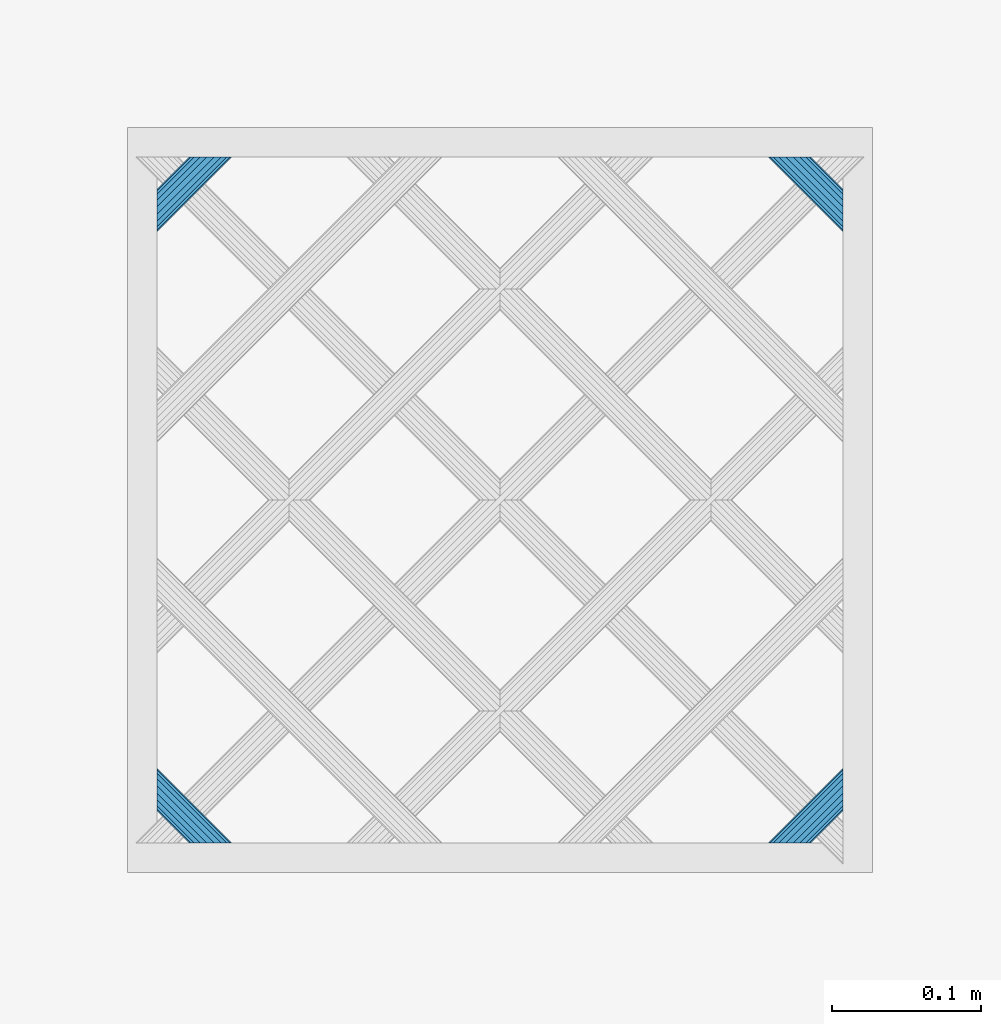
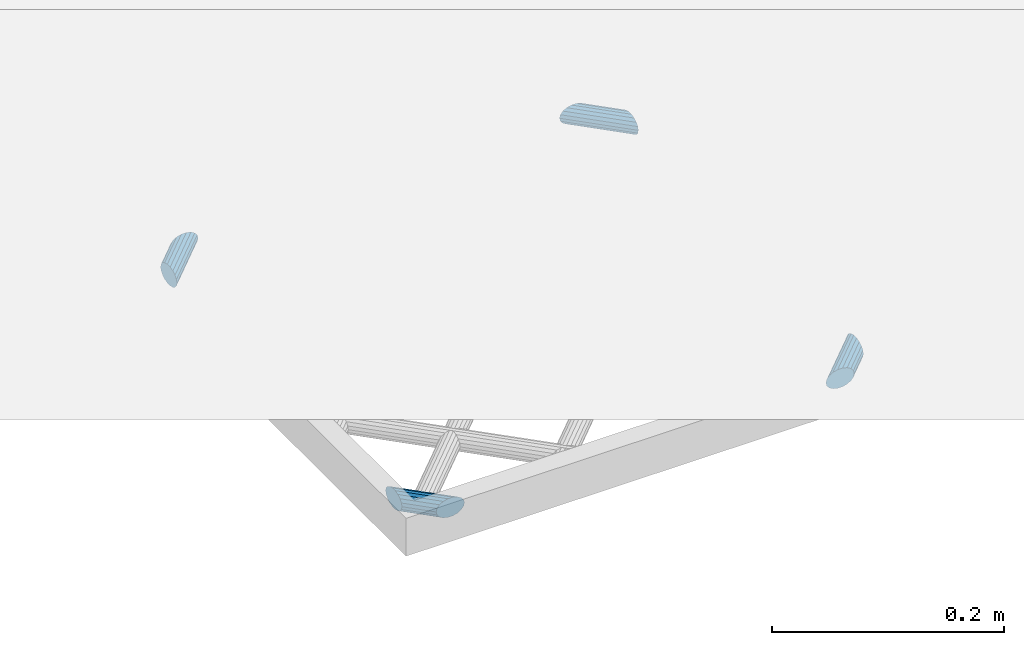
# One storey, part 82 of 133: 4 members, 1 element without a shape of its own.
"""IFC2X3 building model written with IfcOpenShell, lengths in centimetres."""

import ifcopenshell
import ifcopenshell.guid

model = None  # the IFC model being written
_history = None  # IfcOwnerHistory: only IFC2X3 demands one
_inside = {}  # id of a spatial element -> (the spatial element, [elements in it])
_under = {}  # id of a project, library or spatial element -> (it, [spatial elements below it])
_declared = {}  # id of a project -> (the project, [libraries it declares])
_typed = {}  # id of a type object -> (the type object, [elements of that type])
_made_of = {}  # id of a material, layer set ... -> (it, [elements and type objects made of it])


def new_model(schema):
    """Start an empty IFC model of exactly this schema.

    Asked for "IFC4X3", IfcOpenShell would pick the latest addendum, in which some entities
    have other attributes; the version numbers below select the first issue.
    IFC2X3 requires an IfcOwnerHistory on every rooted entity: one is made here for all.
    """
    global model, _history
    if schema == "IFC4X3":
        model = ifcopenshell.file(schema_version=(4, 3, 0, 0))
    else:
        model = ifcopenshell.file(schema=schema)
    _inside.clear()
    _under.clear()
    _declared.clear()
    _typed.clear()
    _made_of.clear()
    _history = None
    if model.schema == "IFC2X3":
        org = make("IfcOrganization", Name="unknown")
        user = make(
            "IfcPersonAndOrganization",
            ThePerson=make("IfcPerson", FamilyName="unknown"),
            TheOrganization=org,
        )
        app = make(
            "IfcApplication",
            ApplicationDeveloper=org,
            Version="unknown",
            ApplicationFullName="unknown",
            ApplicationIdentifier="unknown",
        )
        _history = make(
            "IfcOwnerHistory",
            OwningUser=user,
            OwningApplication=app,
            ChangeAction="ADDED",
            CreationDate=0,
        )
    return model


def make(cls, **values):
    """One entity of the class cls with the attributes given. An attribute that is None is left unset."""
    return model.create_entity(
        cls, **{name: value for name, value in values.items() if value is not None}
    )


def entity(cls, *values):
    """Any entity or typed value of the class cls, its attributes in the order of the schema. None: left unset."""
    e = model.create_entity(cls)
    for i, value in enumerate(values):
        if value is not None:
            e[i] = value
    return e


def rooted(cls, **values):
    """An entity with a GlobalId (a new one), such as an element, a storey or a relation."""
    return make(cls, GlobalId=ifcopenshell.guid.new(), OwnerHistory=_history, **values)


def si_unit(unit_type, name, prefix=None):
    """IfcSIUnit, for example si_unit("LENGTHUNIT", "METRE", prefix="MILLI")."""
    return make("IfcSIUnit", UnitType=unit_type, Prefix=prefix, Name=name)


def converted_unit(unit_type, name, factor, base, dimensions=None, offset=None):
    """IfcConversionBasedUnit, such as the inch: factor (a typed value) times the base unit."""
    return make(
        "IfcConversionBasedUnit"
        if offset is None
        else "IfcConversionBasedUnitWithOffset",
        ConversionOffset=offset,
        Dimensions=None
        if dimensions is None
        else entity("IfcDimensionalExponents", *dimensions),
        UnitType=unit_type,
        Name=name,
        ConversionFactor=make(
            "IfcMeasureWithUnit", ValueComponent=factor, UnitComponent=base
        ),
    )


def assignment(units):
    """IfcUnitAssignment: the units of a project."""
    return None if units is None else make("IfcUnitAssignment", Units=units)


def point(xyz):
    """IfcCartesianPoint."""
    return None if xyz is None else make("IfcCartesianPoint", Coordinates=xyz)


def direction(xyz):
    """IfcDirection."""
    return None if xyz is None else make("IfcDirection", DirectionRatios=xyz)


def frame(location, z_axis=None, x_axis=None):
    """IfcAxis2Placement3D, a coordinate frame: its origin and axes. An axis left out is left unset."""
    return make(
        "IfcAxis2Placement3D",
        Location=point(location),
        Axis=direction(z_axis),
        RefDirection=direction(x_axis),
    )


def origin():
    """The frame at (0, 0, 0) with its axes left unset."""
    return frame((0.0, 0.0, 0.0))


def origin_with_axes():
    """The frame at (0, 0, 0) with the z axis (0, 0, 1) and the x axis (1, 0, 0) written out."""
    return frame((0.0, 0.0, 0.0), z_axis=(0.0, 0.0, 1.0), x_axis=(1.0, 0.0, 0.0))


def place(relative_to, where):
    """IfcLocalPlacement: puts the frame where relative to a parent placement (None: the world)."""
    return make(
        "IfcLocalPlacement", PlacementRelTo=relative_to, RelativePlacement=where
    )


def context(
    kind, dimensions, precision=None, world=None, true_north=None, identifier=None
):
    """IfcGeometricRepresentationContext, for example the 3D "Model" context."""
    return make(
        "IfcGeometricRepresentationContext",
        ContextIdentifier=identifier,
        ContextType=kind,
        CoordinateSpaceDimension=dimensions,
        Precision=precision,
        WorldCoordinateSystem=world,
        TrueNorth=true_north,
    )


def subcontext(parent, identifier, kind, view, scale=None):
    """IfcGeometricRepresentationSubContext, for example "Body" below "Model"."""
    return make(
        "IfcGeometricRepresentationSubContext",
        ContextIdentifier=identifier,
        ContextType=kind,
        ParentContext=parent,
        TargetScale=scale,
        TargetView=view,
    )


def project(units=None, contexts=None):
    """IfcProject with its units and contexts."""
    return rooted(
        "IfcProject",
        Name="project",
        RepresentationContexts=contexts,
        UnitsInContext=assignment(units),
    )


def spatial(cls, under=None, at=None, **own):
    """A site, building, storey or space (cls), placed at a placement, below another one or the project."""
    s = rooted(cls, ObjectPlacement=at, **own)
    if under is not None:
        _under.setdefault(under.id(), (under, []))[1].append(s)
    return s


def faces_of(points, faces, orient=None, outer=None):
    """IfcFace entities. A face is a list of loops; a loop is a list of indices into points, from 0.

    orient and outer hold one flag for each loop. By default every Orientation is true, the
    first loop of a face is its IfcFaceOuterBound and the others are IfcFaceBound.
    """
    made = []
    for i, loops in enumerate(faces):
        bounds = []
        for j, loop in enumerate(loops):
            is_outer = j == 0 if outer is None else outer[i][j]
            bounds.append(
                make(
                    "IfcFaceOuterBound" if is_outer else "IfcFaceBound",
                    Bound=make("IfcPolyLoop", Polygon=[points[k] for k in loop]),
                    Orientation=True if orient is None else orient[i][j],
                )
            )
        made.append(make("IfcFace", Bounds=bounds))
    return made


def faceted_brep(points, faces, orient=None, outer=None, voids=None):
    """IfcFacetedBrep: a solid bounded by flat faces; with voids (closed shells), ...WithVoids."""
    shared = [point(p) for p in points]
    hull = make("IfcClosedShell", CfsFaces=faces_of(shared, faces, orient, outer))
    if voids is None:
        return make("IfcFacetedBrep", Outer=hull)
    return make(
        "IfcFacetedBrepWithVoids",
        Outer=hull,
        Voids=[
            make(cls, CfsFaces=faces_of(shared, fs, o, b)) for cls, fs, o, b in voids
        ],
    )


def shape(context_of_items, identifier, shape_type, items):
    """IfcShapeRepresentation: the items that make up one representation, for example the "Body"."""
    return make(
        "IfcShapeRepresentation",
        ContextOfItems=context_of_items,
        RepresentationIdentifier=identifier,
        RepresentationType=shape_type,
        Items=items,
    )


def material(Name=None, Category=None):
    """IfcMaterial."""
    return make("IfcMaterial", Name=Name, Category=Category)


def made_of(thing, what):
    """Note that an element or type object is made of a material, layer set ...; save() writes the relation."""
    if what is not None:
        _made_of.setdefault(what.id(), (what, []))[1].append(thing)
    return thing


def type_object(cls, material=None, **own):
    """A type object (cls), such as IfcWallType, which elements share."""
    return made_of(rooted(cls, **own), material)


def element(
    cls,
    number,
    at=None,
    inside=None,
    cuts=None,
    type_object=None,
    material=None,
    context=None,
    identifier="Body",
    shape_type=None,
    held_by="IfcProductDefinitionShape",
    body=None,
    shapes=None,
    **own,
):
    """One element of the class cls, such as IfcWall. Its Tag is "e" and its number.

    at: its placement. inside: the storey or other place that contains it. cuts: it is an
    opening in that element (IfcRelVoidsElement). A single representation is given by context,
    identifier, shape_type and body (its items); several are given by shapes. held_by: the class
    of the entity that holds the representations. save() writes the other relations.
    """
    e = rooted(cls, Tag="e%d" % number, ObjectPlacement=at, **own)
    if body is not None:
        shapes = [shape(context, identifier, shape_type, body)]
    if shapes is not None:
        e.Representation = make(held_by, Representations=shapes)
    if inside is not None:
        _inside.setdefault(inside.id(), (inside, []))[1].append(e)
    if cuts is not None:
        rooted(
            "IfcRelVoidsElement", RelatingBuildingElement=cuts, RelatedOpeningElement=e
        )
    if type_object is not None:
        _typed.setdefault(type_object.id(), (type_object, []))[1].append(e)
    return made_of(e, material)


def aggregate(whole, parts):
    """IfcRelAggregates: a whole, such as a stair, and the parts it consists of."""
    return rooted("IfcRelAggregates", RelatingObject=whole, RelatedObjects=parts)


def save(model, path):
    """Write the relations noted so far, then the file.

    IfcRelAggregates (storeys below a building ...), IfcRelContainedInSpatialStructure (elements
    in a storey), IfcRelDefinesByType, IfcRelAssociatesMaterial and IfcRelDeclares: one each for
    every whole, place, type object, material and project.
    """
    for whole, parts in _under.values():
        aggregate(whole, parts)
    for where, things in _inside.values():
        rooted(
            "IfcRelContainedInSpatialStructure",
            RelatedElements=things,
            RelatingStructure=where,
        )
    for kind, things in _typed.values():
        rooted("IfcRelDefinesByType", RelatedObjects=things, RelatingType=kind)
    for what, things in _made_of.values():
        rooted("IfcRelAssociatesMaterial", RelatedObjects=things, RelatingMaterial=what)
    for by, libraries in _declared.values():
        rooted("IfcRelDeclares", RelatingContext=by, RelatedDefinitions=libraries)
    model.write(path)


model = new_model("IFC2X3")

# Units and contexts
model_context = context("Model", 3, precision=0.0001, world=origin(), true_north=direction((0.225632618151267, 0.974212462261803, 0.0)))
body_context = subcontext(model_context, "Body", "Model", "MODEL_VIEW")
ifc_project = project(units=[si_unit("LENGTHUNIT", "METRE", prefix="CENTI"), si_unit("AREAUNIT", "SQUARE_METRE", prefix="CENTI"), si_unit("VOLUMEUNIT", "CUBIC_METRE", prefix="CENTI"), converted_unit("PLANEANGLEUNIT", "DEGREE", entity("IfcRatioMeasure", 0.0174532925), si_unit("PLANEANGLEUNIT", "RADIAN"), dimensions=[0, 0, 0, 0, 0, 0, 0])], contexts=[model_context])

# Site, building, storey
site_placement = place(None, origin_with_axes())
site = spatial("IfcSite", under=ifc_project, at=site_placement, Name="Default Site", CompositionType="ELEMENT")
building_placement = place(site_placement, origin_with_axes())
building = spatial("IfcBuilding", under=site, at=building_placement, Name="Default Building", CompositionType="ELEMENT")
storey_placement = place(building_placement, frame((0.0, 0.0, -291.400371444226), z_axis=(0.0, 0.0, 1.0), x_axis=(1.0, 0.0, 0.0)))
storey = spatial("IfcBuildingStorey", under=building, at=storey_placement, Name="Rez-de-Jardin", CompositionType="ELEMENT", Elevation=-291.400371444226)

# Assembly, members
building_element_proxy_type = type_object("IfcBuildingElementProxyType", Name="Type Object", PredefinedType="NOTDEFINED")
assembly_placement = place(storey_placement, frame((900.320251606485, -1301.00060342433, -48.0), z_axis=(0.0, 1.0, -2.38697950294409e-15), x_axis=(1.0, 0.0, 0.0)))
assembly = element("IfcElementAssembly", 1, at=assembly_placement, inside=storey, type_object=building_element_proxy_type, Name="Panneau 294718", ObjectType="Precast panel", PredefinedType="USERDEFINED")
ifc_material = material(Name="Aluminium satiné")
member_1_placement = place(assembly_placement, frame((6.90251886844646, 0.342020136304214, 47.9999989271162), z_axis=(1.16937634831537e-15, -1.43218776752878e-15, 1.0), x_axis=(0.632455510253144, -0.774596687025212, -1.84894641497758e-15)))
member_1 = element("IfcMember", 2, at=member_1_placement, material=ifc_material, Name="4294966686", context=body_context, shape_type="Brep", body=[
    faceted_brep([(2.77555756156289e-14, 3.2612801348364e-14, 2.77555756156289e-14), (-0.388289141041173, 3.2612801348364e-14, 2.70376498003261e-14), (-0.799165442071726, -0.150248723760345, 2.62779615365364e-14), (-1.18307196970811, -0.432624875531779, 2.55681389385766e-14), (-1.493703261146, -0.813068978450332, 2.49937983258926e-14), (-1.69359269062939, -1.24569397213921, 2.46242134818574e-14), (-1.75863096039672, -1.67831921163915, 2.45039612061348e-14), (-1.68097311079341, -2.0587633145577, 2.46475464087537e-14), (-1.46998578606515, -2.3411389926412, 2.50376506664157e-14), (-1.15111778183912, -2.49138835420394, 2.56272205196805e-14), (-0.762828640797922, -2.49138835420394, 2.63451463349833e-14), (-0.351951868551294, -2.34113905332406, 2.71048354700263e-14), (0.0319544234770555, -2.05876319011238, 2.78146576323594e-14), (0.342585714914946, -1.67831908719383, 2.83889982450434e-14), (0.542475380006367, -1.24569380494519, 2.87585835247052e-14), (0.607513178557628, -0.813069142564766, 2.88788349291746e-14), (0.529855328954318, -0.432625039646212, 2.87352497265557e-14), (0.318868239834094, -0.150249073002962, 2.83451459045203e-14), (-2.83569743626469, -4.0137874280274, -4.98780608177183), (-2.57076977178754, -4.23009994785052, -4.90251779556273), (-2.33779627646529, -4.4203219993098, -4.65694367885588), (-2.16487702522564, -4.56150996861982, -4.28069829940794), (-2.07286859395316, -4.63663453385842, -3.81916761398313), (-2.07286859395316, -4.63663453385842, -3.3280164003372), (-2.16487702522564, -4.56150996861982, -2.86648571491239), (-2.33779627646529, -4.4203219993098, -2.49024033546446), (-2.57076977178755, -4.23009994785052, -2.24466621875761), (-2.83569743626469, -4.0137874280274, -2.1593779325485), (-3.10062510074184, -3.79747490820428, -2.24466621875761), (-3.33359859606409, -3.607252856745, -2.49024033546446), (-3.50651784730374, -3.46606488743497, -2.86648571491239), (-3.59852627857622, -3.39094032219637, -3.3280164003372), (-3.59852627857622, -3.39094032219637, -3.81916761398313), (-3.50651784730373, -3.46606488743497, -4.28069829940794), (-3.33359859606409, -3.607252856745, -4.65694367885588), (-3.10062510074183, -3.79747490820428, -4.90251779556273), (0.318868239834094, -0.150249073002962, 2.77555756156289e-14), (0.529855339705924, -0.432625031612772, -1.30225605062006e-08), (-2.57076931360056, -4.23009960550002, -4.90251835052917), (-2.83569728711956, -4.01378731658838, -4.98780626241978), (0.529855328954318, -0.432625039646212, 2.77555756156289e-14), (0.607513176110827, -0.813069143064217, 1.93439383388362e-09), (-2.33779645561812, -4.42032203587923, -4.65694353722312), (-2.57076924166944, -4.23009983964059, -4.90251821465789), (0.607513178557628, -0.813069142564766, 2.77555756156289e-14), (0.542475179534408, -1.24569377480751, 1.03445070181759e-07), (-2.16487647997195, -4.56151005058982, -4.28069858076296), (-2.33779642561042, -4.42032197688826, -4.65694360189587), (0.542475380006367, -1.24569380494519, 2.77555756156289e-14), (0.342585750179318, -1.67831910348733, -9.68222409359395e-09), (-2.07286832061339, -4.63663466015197, -3.81916768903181), (-2.16487662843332, -4.56151015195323, -4.28069840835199), (0.342585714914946, -1.67831908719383, 2.77555756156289e-14), (0.0319544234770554, -2.05876319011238, 2.77555756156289e-14), (0.0319544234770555, -2.05876319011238, 2.77555756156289e-14), (-0.351951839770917, -2.34113909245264, 1.21065846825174e-08), (-2.16487710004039, -4.56150986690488, -2.86648574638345), (-2.07286874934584, -4.63663432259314, -3.32801646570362), (-0.351951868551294, -2.34113905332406, 2.77555756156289e-14), (-0.762828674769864, -2.49138826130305, -5.0474953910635e-08), (-2.33779662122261, -4.42032105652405, -2.49024084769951), (-2.16487712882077, -4.56150968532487, -2.86648586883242), (-0.762828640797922, -2.49138835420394, 2.77555756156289e-14), (-1.15111778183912, -2.4913883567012, 1.93439383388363e-09), (-2.57076977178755, -4.23009958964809, -2.24466649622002), (-2.3377962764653, -4.42032091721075, -2.49024117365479), (-1.15111778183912, -2.49138835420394, 2.77555756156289e-14), (-1.4699858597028, -2.34113914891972, 1.67625391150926e-07), (-2.83569711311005, -4.01378674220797, -2.1593786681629), (-2.57076961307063, -4.23009961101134, -2.24466658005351), (-1.46998578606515, -2.3411389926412, 2.77555756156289e-14), (-1.68097297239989, -2.05876321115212, -1.67625336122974e-07), (-3.10062466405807, -3.79747458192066, -2.24466674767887), (-2.83569669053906, -4.0137868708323, -2.15937883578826), (-1.68097311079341, -2.0587633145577, 2.77555756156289e-14), (-1.75863095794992, -1.67831921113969, -1.93433811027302e-09), (-3.33359753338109, -3.60725263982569, -2.49024117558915), (-3.10062474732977, -3.79747483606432, -2.24466649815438), (-1.75863096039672, -1.67831921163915, 2.77555756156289e-14), (-1.69359278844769, -1.24569395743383, 5.04750088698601e-08), (-3.50651764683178, -3.46606491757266, -2.86648581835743), (-3.33359770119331, -3.60725299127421, -2.49024079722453), (-1.69359269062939, -1.24569397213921, 2.77555756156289e-14), (-1.49370321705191, -0.813068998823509, -1.21065290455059e-08), (-3.59852599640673, -3.3909404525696, -3.32801647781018), (-3.50651768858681, -3.46606496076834, -2.86648575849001), (-1.493703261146, -0.813068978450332, 2.77555756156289e-14), (-1.18307196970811, -0.432624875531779, 2.77555756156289e-14), (-0.799165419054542, -0.15024875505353, 9.68227947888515e-09), (-3.50651808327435, -3.46606456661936, -4.28069839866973), (-3.5985264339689, -3.3909401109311, -3.81916767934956), (-0.799165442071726, -0.150248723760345, 2.77555756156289e-14), (-0.388289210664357, 1.90394093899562e-07, -1.03445014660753e-07), (-3.33359861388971, -3.60725280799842, -4.65694370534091), (-3.50651810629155, -3.46606417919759, -4.280698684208), (-0.388289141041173, 3.2612801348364e-14, 2.77555756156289e-14), (2.77298781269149e-14, 2.49728807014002e-09, -1.93433803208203e-09), (-3.10062510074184, -3.7974743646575, -4.90251821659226), (-3.33359859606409, -3.60725303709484, -4.65694353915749), (0.318868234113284, -0.15024908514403, 1.30226167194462e-08), (-2.83569736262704, -4.01378727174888, -4.9878062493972), (-3.10062486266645, -3.7974744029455, -4.90251833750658)], [[[0, 1, 2, 3, 4, 5, 6, 7, 8, 9, 10, 11, 12, 13, 14, 15, 16, 17]], [[18, 19, 20, 21, 22, 23, 24, 25, 26, 27, 28, 29, 30, 31, 32, 33, 34, 35]], [[36, 37, 38, 39]], [[40, 41, 42, 43]], [[44, 45, 46, 47]], [[48, 49, 50, 51]], [[52, 53, 23, 22]], [[54, 55, 56, 57]], [[58, 59, 60, 61]], [[62, 63, 64, 65]], [[66, 67, 68, 69]], [[70, 71, 72, 73]], [[74, 75, 76, 77]], [[78, 79, 80, 81]], [[82, 83, 84, 85]], [[86, 87, 32, 31]], [[87, 88, 89, 90]], [[91, 92, 93, 94]], [[95, 96, 97, 98]], [[0, 99, 100, 101]]]),
])
member_2_placement = place(assembly_placement, frame((47.9999989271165, 0.342020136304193, 4.24466691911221), z_axis=(0.999999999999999, 0.0, 0.0), x_axis=(0.0, -0.774596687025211, -0.632455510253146)))
member_2 = element("IfcMember", 3, at=member_2_placement, material=ifc_material, Name="4294966680", context=body_context, shape_type="Brep", body=[
    faceted_brep([(4.30211422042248e-14, 2.42861286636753e-14, -1.55431223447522e-13), (-0.388289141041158, 2.56739074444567e-14, -1.55431223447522e-13), (-0.799165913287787, -0.150249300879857, -1.55431223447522e-13), (-1.18307220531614, -0.432625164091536, -1.55431223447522e-13), (-1.49370349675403, -0.813069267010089, -1.55431223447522e-13), (-1.69359316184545, -1.24569454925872, -1.55431223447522e-13), (-1.75863096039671, -1.67831921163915, -1.55431223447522e-13), (-1.6809731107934, -2.0587633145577, -1.55431223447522e-13), (-1.46998602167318, -2.34113928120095, -1.55431223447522e-13), (-1.15111778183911, -2.49138835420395, -1.55431223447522e-13), (-0.762828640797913, -2.49138835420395, -1.55431223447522e-13), (-0.35195233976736, -2.34113963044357, -1.55431223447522e-13), (0.031954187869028, -2.05876347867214, -1.55431223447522e-13), (0.34258547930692, -1.67831937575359, -1.55431223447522e-13), (0.542474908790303, -1.24569438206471, -1.55431223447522e-13), (0.607513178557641, -0.813069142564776, -1.55431223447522e-13), (0.529855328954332, -0.432625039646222, -1.55431223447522e-13), (0.318868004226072, -0.150249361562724, -1.55431223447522e-13), (1.68457965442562, 1.52239907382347, -2.15937793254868), (1.94950731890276, 1.30608655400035, -2.24466621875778), (2.18248081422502, 1.11586450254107, -2.49024033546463), (2.35540006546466, 0.974676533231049, -2.86648571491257), (2.44740849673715, 0.899551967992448, -3.32801640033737), (2.44740849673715, 0.899551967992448, -3.81916761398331), (2.35540006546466, 0.974676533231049, -4.28069829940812), (2.18248081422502, 1.11586450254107, -4.65694367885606), (1.94950731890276, 1.30608655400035, -4.9025177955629), (1.68457965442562, 1.52239907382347, -4.98780608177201), (1.41965198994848, 1.7387115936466, -4.9025177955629), (1.18667849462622, 1.92893364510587, -4.65694367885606), (1.01375924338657, 2.0701216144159, -4.28069829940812), (0.921750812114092, 2.1452461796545, -3.81916761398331), (0.921750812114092, 2.1452461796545, -3.32801640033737), (1.01375924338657, 2.0701216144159, -2.86648571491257), (1.18667849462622, 1.92893364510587, -2.49024033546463), (1.41965198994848, 1.7387115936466, -2.24466621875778), (0.529855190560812, -0.432625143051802, -1.67625519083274e-07), (1.94950688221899, 1.30608622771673, -2.24466674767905), (1.68457890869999, 1.52239851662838, -2.15937883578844), (0.60751317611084, -0.813069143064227, -1.93452158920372e-09), (2.18247975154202, 1.11586428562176, -2.49024117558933), (1.9495069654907, 1.3060864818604, -2.24466649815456), (0.542475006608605, -1.24569439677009, 5.04748259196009e-08), (2.3553998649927, 0.974676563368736, -2.86648581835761), (2.18247991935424, 1.11586463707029, -2.4902407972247), (0.342585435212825, -1.67831935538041, -1.21067124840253e-08), (2.44740821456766, 0.89955209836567, -3.32801647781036), (2.35539990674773, 0.974676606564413, -2.86648575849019), (0.0319541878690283, -2.05876347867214, -1.55431223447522e-13), (-0.351952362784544, -2.34113959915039, 9.68209625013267e-09), (2.35540030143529, 0.974676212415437, -4.28069839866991), (2.44740865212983, 0.89955175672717, -3.81916767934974), (-0.762828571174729, -2.49138854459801, -1.03445197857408e-07), (2.18248083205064, 1.11586445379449, -4.65694370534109), (2.35540032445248, 0.974675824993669, -4.28069868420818), (-1.15111778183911, -2.49138835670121, -1.93452108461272e-09), (1.94950731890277, 1.30608601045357, -4.90251821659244), (2.18248081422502, 1.11586468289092, -4.65694353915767), (-1.46998601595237, -2.34113926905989, 1.30224329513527e-08), (1.68457958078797, 1.52239891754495, -4.98780624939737), (1.94950708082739, 1.30608604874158, -4.90251833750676), (-1.68097312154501, -2.05876332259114, -1.30227440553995e-08), (1.41965153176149, 1.7387112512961, -4.90251835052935), (1.6845795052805, 1.52239896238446, -4.98780626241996), (-1.75863095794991, -1.6783192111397, 1.93421064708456e-09), (1.18667867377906, 1.9289336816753, -4.6569435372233), (1.41965145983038, 1.73871148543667, -4.90251821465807), (-1.69359296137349, -1.24569457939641, 1.03444886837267e-07), (1.01375869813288, 2.07012169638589, -4.28069858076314), (1.18667864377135, 1.92893362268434, -4.65694360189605), (-1.4937035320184, -0.813069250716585, -9.68240711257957e-09), (0.921750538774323, 2.14524630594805, -3.81916768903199), (1.01375884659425, 2.07012179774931, -4.28069840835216), (0.92175081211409, 2.1452461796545, -3.32801640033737), (0.92175081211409, 2.1452461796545, -3.81916761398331), (-0.799165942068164, -0.150249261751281, 1.21064016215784e-08), (1.01375931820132, 2.07012151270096, -2.86648574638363), (0.921750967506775, 2.14524596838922, -3.3280164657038), (-0.388289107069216, -9.29008662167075e-08, -5.04751368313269e-08), (1.18667883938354, 1.92893270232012, -2.49024084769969), (1.0137593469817, 2.07012133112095, -2.86648586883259), (4.29954447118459e-14, 2.4972803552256e-09, 1.93421083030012e-09), (1.41965198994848, 1.73871123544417, -2.2446664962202), (1.18667849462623, 1.92893256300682, -2.49024117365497), (0.318868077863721, -0.150249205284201, 1.67625208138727e-07), (1.68457933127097, 1.52239838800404, -2.15937866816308), (1.41965183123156, 1.73871125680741, -2.24466658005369)], [[[0, 1, 2, 3, 4, 5, 6, 7, 8, 9, 10, 11, 12, 13, 14, 15, 16, 17]], [[18, 19, 20, 21, 22, 23, 24, 25, 26, 27, 28, 29, 30, 31, 32, 33, 34, 35]], [[17, 36, 37, 38]], [[16, 39, 40, 41]], [[15, 42, 43, 44]], [[14, 45, 46, 47]], [[13, 48, 23, 22]], [[12, 49, 50, 51]], [[11, 52, 53, 54]], [[10, 55, 56, 57]], [[9, 58, 59, 60]], [[8, 61, 62, 63]], [[7, 64, 65, 66]], [[6, 67, 68, 69]], [[5, 70, 71, 72]], [[4, 3, 73, 74]], [[3, 75, 76, 77]], [[2, 78, 79, 80]], [[1, 81, 82, 83]], [[0, 84, 85, 86]]]),
])
member_3_placement = place(assembly_placement, frame((47.9999989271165, 0.342020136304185, 43.0974811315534), z_axis=(0.999999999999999, 0.0, 0.0), x_axis=(0.0, -0.774598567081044, -0.632453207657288)))
member_3 = element("IfcMember", 4, at=member_3_placement, material=ifc_material, Name="4294966679", context=body_context, shape_type="Brep", body=[
    faceted_brep([(5.55111512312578e-15, -1.0547118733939e-13, 0.0), (-0.388288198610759, -1.0547118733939e-13, 0.0), (-0.799165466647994, -0.150251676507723, 0.0), (-1.18307068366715, -0.432628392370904, 0.0), (-1.49370084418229, -0.813073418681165, 0.0), (-1.69358875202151, -1.24569871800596, 0.0), (-1.75862667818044, -1.6783253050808, 0.0), (-1.68096675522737, -2.05876802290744, 0.0), (-1.46997929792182, -2.34114393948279, 0.0), (-1.15111014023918, -2.49139148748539, 0.0), (-0.762821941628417, -2.49139148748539, 0.0), (-0.351944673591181, -2.34113981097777, 0.0), (0.0319605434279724, -2.05876309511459, 0.0), (0.342590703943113, -1.67831806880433, 0.0), (0.542478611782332, -1.24569276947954, 0.0), (0.607516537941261, -0.813066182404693, 0.0), (0.529856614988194, -0.432623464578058, 0.0), (0.318869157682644, -0.150247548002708, 0.0), (-2.8356847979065, -4.0137949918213, -4.98780608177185), (-2.5707564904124, -4.23010672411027, -4.90251779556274), (-2.33778242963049, -4.42032808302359, -4.6569436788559), (-2.16486275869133, -4.56151553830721, -4.28069829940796), (-2.07285410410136, -4.63663983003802, -3.81916761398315), (-2.07285410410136, -4.63663983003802, -3.32801640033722), (-2.16486275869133, -4.56151553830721, -2.86648571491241), (-2.33778242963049, -4.42032808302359, -2.49024033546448), (-2.5707564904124, -4.23010672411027, -2.24466621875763), (-2.8356847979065, -4.0137949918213, -2.15937793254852), (-3.10061310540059, -3.79748325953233, -2.24466621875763), (-3.33358716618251, -3.60726190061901, -2.49024033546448), (-3.50650683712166, -3.46607444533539, -2.86648571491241), (-3.59851549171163, -3.39095015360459, -3.32801640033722), (-3.59851549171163, -3.39095015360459, -3.81916761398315), (-3.50650683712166, -3.46607444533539, -4.28069829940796), (-3.33358716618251, -3.60726190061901, -4.6569436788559), (-3.10061310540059, -3.79748325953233, -4.90251779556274), (0.529856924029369, -0.432623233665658, -3.74318495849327e-07), (-2.57075618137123, -4.23010649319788, -4.90251816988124), (0.607515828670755, -0.813066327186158, 5.60727922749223e-07), (-2.33778313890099, -4.42032822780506, -4.65694311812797), (0.542479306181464, -1.245692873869, -3.58315028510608e-07), (-2.1648620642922, -4.56151564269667, -4.28069865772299), (-2.33778242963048, -4.42032808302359, -4.6569436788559), (0.34259058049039, -1.67831801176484, 3.38953638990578e-08), (-2.07285422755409, -4.63663977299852, -3.81916758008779), (0.0319605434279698, -2.05876309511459, 0.0), (-2.07285410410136, -4.63663983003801, -3.32801640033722), (-2.07285410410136, -4.63663983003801, -3.81916761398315), (-0.351944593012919, -2.34113992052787, 3.3895365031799e-08), (-2.16486267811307, -4.5615156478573, -2.86648568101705), (-0.762822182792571, -2.49139082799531, -3.58315028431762e-07), (-2.33778267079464, -4.42032742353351, -2.49024069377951), (-1.15111014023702, -2.49139221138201, 5.60727920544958e-07), (-2.57075649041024, -4.2301074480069, -2.24466565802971), (-1.46997913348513, -2.34114359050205, -3.74318492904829e-07), (-2.8356846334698, -4.01379464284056, -2.15937830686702), (-1.68096706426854, -2.05876825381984, 3.74318495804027e-07), (-3.10061341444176, -3.79748349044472, -2.24466584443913), (-1.75862596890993, -1.67832516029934, -5.60727922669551e-07), (-3.333586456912, -3.60726175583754, -2.4902408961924), (-1.69358944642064, -1.24569861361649, 3.58315028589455e-07), (-3.50650753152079, -3.46607434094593, -2.86648535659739), (-1.49370072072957, -0.813073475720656, -3.38953650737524e-08), (-3.5985153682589, -3.39095021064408, -3.32801643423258), (-1.18307068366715, -0.432628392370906, 0.0), (-0.799165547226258, -0.150251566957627, -3.38953657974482e-08), (-3.50650691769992, -3.4660743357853, -4.28069833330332), (-3.59851549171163, -3.39095015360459, -3.81916761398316), (-0.388287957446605, -6.59490185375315e-07, 3.58315028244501e-07), (-3.33358692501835, -3.60726256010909, -4.65694332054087), (-2.15377827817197e-12, 7.23896516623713e-07, -5.60727920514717e-07), (-3.10061310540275, -3.7974825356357, -4.90251835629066), (0.318868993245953, -0.150247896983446, 3.74318492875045e-07), (-2.83568496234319, -4.01379534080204, -4.98780570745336)], [[[0, 1, 2, 3, 4, 5, 6, 7, 8, 9, 10, 11, 12, 13, 14, 15, 16, 17]], [[18, 19, 20, 21, 22, 23, 24, 25, 26, 27, 28, 29, 30, 31, 32, 33, 34, 35]], [[17, 36, 37, 18]], [[16, 38, 39, 19]], [[15, 40, 41, 42]], [[14, 43, 44, 21]], [[13, 45, 46, 47]], [[12, 48, 49, 46]], [[11, 50, 51, 24]], [[10, 52, 53, 25]], [[9, 54, 55, 26]], [[8, 56, 57, 27]], [[7, 58, 59, 28]], [[6, 60, 61, 29]], [[5, 62, 63, 30]], [[4, 64, 32, 31]], [[3, 65, 66, 67]], [[2, 68, 69, 33]], [[1, 70, 71, 34]], [[0, 72, 73, 35]]]),
])
member_4_placement = place(assembly_placement, frame((4.24466691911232, 0.342020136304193, 1.99999995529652), z_axis=(1.16937634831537e-15, 1.43218776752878e-15, -1.0), x_axis=(-0.632455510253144, -0.774596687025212, -1.84894641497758e-15)))
member_4 = element("IfcMember", 5, at=member_4_placement, material=ifc_material, Name="4294966673", context=body_context, shape_type="Brep", body=[
    faceted_brep([(-4.23272528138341e-14, -1.60288449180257e-13, -1.73472347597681e-13), (-0.388289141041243, -1.59941504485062e-13, -1.72754421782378e-13), (-0.799165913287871, -0.150249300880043, -1.71994732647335e-13), (-1.18307220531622, -0.432625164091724, -1.71284910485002e-13), (-1.49370349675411, -0.813069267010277, -1.70710569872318e-13), (-1.69359316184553, -1.24569454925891, -1.70340984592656e-13), (-1.75863096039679, -1.67831921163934, -1.70220733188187e-13), (-1.68097311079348, -2.05876331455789, -1.70364318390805e-13), (-1.46998602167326, -2.34113928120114, -1.70754422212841e-13), (-1.15111778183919, -2.49138835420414, -1.71343992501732e-13), (-0.762828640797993, -2.49138835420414, -1.72061918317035e-13), (-0.351952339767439, -2.34113963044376, -1.72821606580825e-13), (0.0319541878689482, -2.05876347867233, -1.73531429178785e-13), (0.342585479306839, -1.67831937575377, -1.74105769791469e-13), (0.542474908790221, -1.24569438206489, -1.74475354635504e-13), (0.607513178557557, -0.813069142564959, -1.74595606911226e-13), (0.529855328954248, -0.432625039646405, -1.74452021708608e-13), (0.318868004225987, -0.150249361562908, -1.74061917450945e-13), (1.68457965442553, 1.52239907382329, -2.15937979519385), (1.94950731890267, 1.30608655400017, -2.24466696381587), (2.18248081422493, 1.11586450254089, -2.49024257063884), (2.35540006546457, 0.974676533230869, -2.86648645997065), (2.44740849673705, 0.899551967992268, -3.32801751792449), (2.44740849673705, 0.899551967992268, -3.81916873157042), (2.35540006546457, 0.97467653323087, -4.28070016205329), (2.18248081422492, 1.11586450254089, -4.65694330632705), (1.94950731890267, 1.30608655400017, -4.90251891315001), (1.68457965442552, 1.52239907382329, -4.98780645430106), (1.41965198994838, 1.73871159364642, -4.90251891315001), (1.18667849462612, 1.92893364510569, -4.65694330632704), (1.01375924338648, 2.07012161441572, -4.28070016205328), (0.921750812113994, 2.14524617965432, -3.81916873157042), (0.921750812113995, 2.14524617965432, -3.32801751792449), (1.01375924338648, 2.07012161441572, -2.86648645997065), (1.18667849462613, 1.92893364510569, -2.49024257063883), (1.41965198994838, 1.73871159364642, -2.24466696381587), (0.318868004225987, -0.150249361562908, -1.73819292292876e-13), (0.529855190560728, -0.432625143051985, -1.67625537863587e-07), (1.94950718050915, 1.30608645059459, -2.24466713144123), (0.529855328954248, -0.432625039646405, -1.74166236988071e-13), (0.607513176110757, -0.81306914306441, -1.93454048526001e-09), (2.18248081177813, 1.11586450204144, -2.4902425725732), (0.607513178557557, -0.813069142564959, -1.74513181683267e-13), (0.542475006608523, -1.24569439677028, 5.04748066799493e-08), (2.35540016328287, 0.974676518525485, -2.86648640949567), (0.542474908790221, -1.24569438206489, -1.74513181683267e-13), (0.342585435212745, -1.6783193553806, -1.21067307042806e-08), (2.44740845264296, 0.899551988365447, -3.32801753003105), (2.35540006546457, 0.97467653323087, -2.86648645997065), (0.342585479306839, -1.67831937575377, -1.73819292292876e-13), (0.0319541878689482, -2.05876347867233, -1.73125402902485e-13), (2.44740849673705, 0.899551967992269, -3.81916873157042), (2.44740849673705, 0.899551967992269, -3.32801751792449), (-0.351952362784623, -2.34113959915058, 9.68207890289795e-09), (2.35540004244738, 0.974676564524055, -4.28070015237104), (2.44740849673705, 0.89955196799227, -3.81916873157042), (-0.351952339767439, -2.34113963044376, -1.7277845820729e-13), (-0.762828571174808, -2.4913885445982, -1.03445214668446e-07), (2.18248088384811, 1.11586431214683, -4.65694340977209), (-0.762828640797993, -2.49138835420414, -1.72084568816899e-13), (-1.15111778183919, -2.49138835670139, -1.93453733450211e-09), (1.94950731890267, 1.30608655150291, -4.90251891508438), (2.18248081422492, 1.11586450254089, -4.65694330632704), (-1.15111778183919, -2.49138835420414, -1.71043734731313e-13), (-1.46998601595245, -2.34113926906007, 1.30224185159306e-08), (1.68457966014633, 1.52239908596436, -4.98780644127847), (-1.46998602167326, -2.34113928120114, -1.70349845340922e-13), (-1.68097312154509, -2.05876332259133, -1.30227584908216e-08), (1.41965197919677, 1.73871158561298, -4.9025189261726), (-1.68097311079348, -2.05876331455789, -1.70349845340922e-13), (-1.75863095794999, -1.67831921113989, 1.93419586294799e-09), (1.18667849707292, 1.92893364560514, -4.65694330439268), (-1.75863096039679, -1.67831921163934, -1.70002900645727e-13), (-1.69359296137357, -1.2456945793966, 1.03444872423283e-07), (1.01375944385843, 2.07012158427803, -4.28070005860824), (-1.69359316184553, -1.24569454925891, -1.70002900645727e-13), (-1.49370353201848, -0.813069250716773, -9.6824221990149e-09), (0.921750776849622, 2.14524619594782, -3.81916874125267), (-1.49370349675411, -0.813069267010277, -1.70349845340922e-13), (-1.18307220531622, -0.432625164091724, -1.71043734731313e-13), (0.921750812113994, 2.14524617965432, -3.32801751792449), (0.921750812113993, 2.14524617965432, -3.81916873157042), (-0.799165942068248, -0.150249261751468, 1.21063852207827e-08), (1.0137592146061, 2.07012165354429, -2.86648644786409), (-0.799165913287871, -0.150249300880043, -1.71737624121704e-13), (-0.388289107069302, -9.2901052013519e-08, -5.04751539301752e-08), (1.18667852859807, 1.9289335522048, -2.49024262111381), (-0.388289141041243, -1.59941504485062e-13, -1.72431513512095e-13), (-4.23529503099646e-14, 2.49709588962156e-09, 1.93419287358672e-09), (1.41965198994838, 1.73871159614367, -2.2446669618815), (0.318868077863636, -0.150249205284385, 1.67625189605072e-07), (1.68457972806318, 1.52239923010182, -2.15937962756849)], [[[0, 1, 2, 3, 4, 5, 6, 7, 8, 9, 10, 11, 12, 13, 14, 15, 16, 17]], [[18, 19, 20, 21, 22, 23, 24, 25, 26, 27, 28, 29, 30, 31, 32, 33, 34, 35]], [[36, 37, 38, 18]], [[39, 40, 41, 19]], [[42, 43, 44, 20]], [[45, 46, 47, 48]], [[49, 50, 51, 52]], [[50, 53, 54, 55]], [[56, 57, 58, 24]], [[59, 60, 61, 62]], [[63, 64, 65, 26]], [[66, 67, 68, 27]], [[69, 70, 71, 28]], [[72, 73, 74, 29]], [[75, 76, 77, 30]], [[78, 79, 80, 81]], [[79, 82, 83, 32]], [[84, 85, 86, 33]], [[87, 88, 89, 34]], [[0, 90, 91, 35]]]),
])
aggregate(assembly, [member_1, member_2, member_3, member_4])

save(model, "model.ifc")
